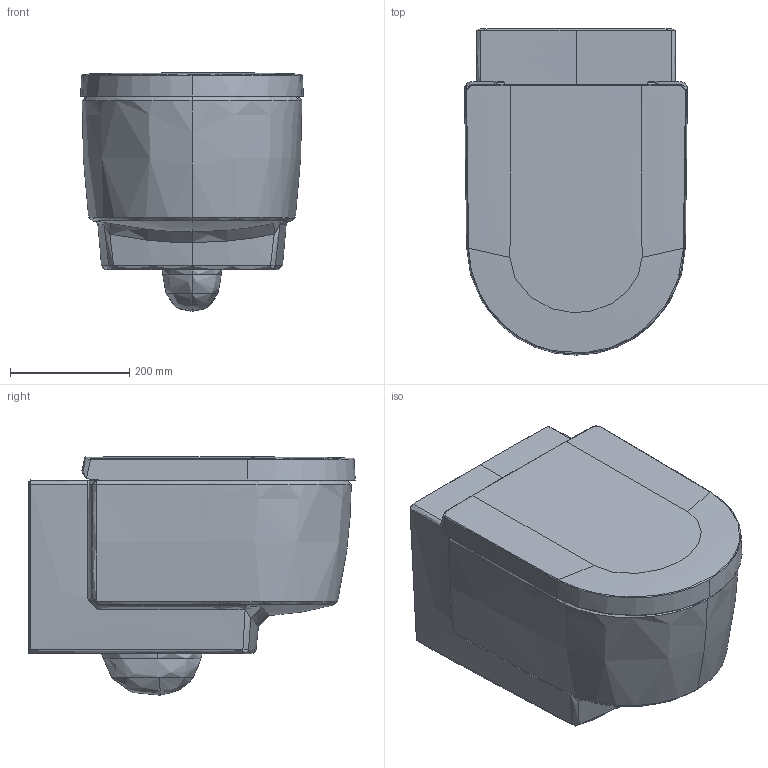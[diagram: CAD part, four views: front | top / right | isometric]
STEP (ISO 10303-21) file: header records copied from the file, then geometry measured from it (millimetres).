
FILE_DESCRIPTION(/* description */ (''),/* implementation_level */ '2;1');
FILE_NAME(/* name */ '290609',/* time_stamp */ '2025-01-29T11:22:07+01:00',/* author */ (''),/* organization */ (''),/* preprocessor_version */ 'ST-DEVELOPER v16.5',/* originating_system */ 'Rhino 7.37',/* authorisation */ '');
FILE_SCHEMA (('CONFIG_CONTROL_DESIGN'));
Products named in the file (1): Document
Bounding box: 373.52 x 547.18 x 399.9 mm (x, y, z)
Volume: 24800160.3 mm3; surface area: 1809354.2 mm2
Topology: 1 solids, 3 shells, 1217 faces, 2970 edges, 1680 vertices
Faces by surface type: bspline 962, cylinder 164, plane 91
Entity records: 197915 total; most frequent: CARTESIAN_POINT 180423, ORIENTED_EDGE 5782, EDGE_CURVE 2919, B_SPLINE_CURVE_WITH_KNOTS 2060, VERTEX_POINT 1680, EDGE_LOOP 1223, ADVANCED_FACE 1217, FACE_OUTER_BOUND 1217
